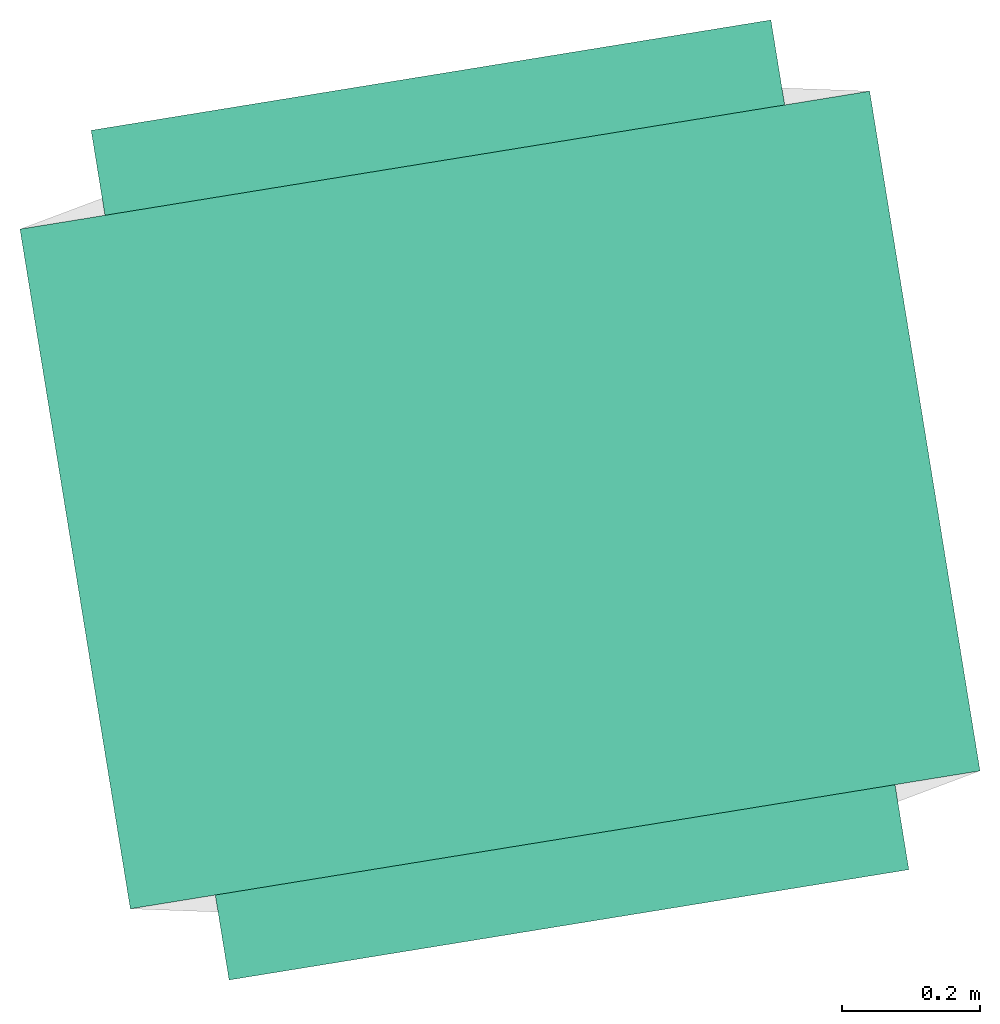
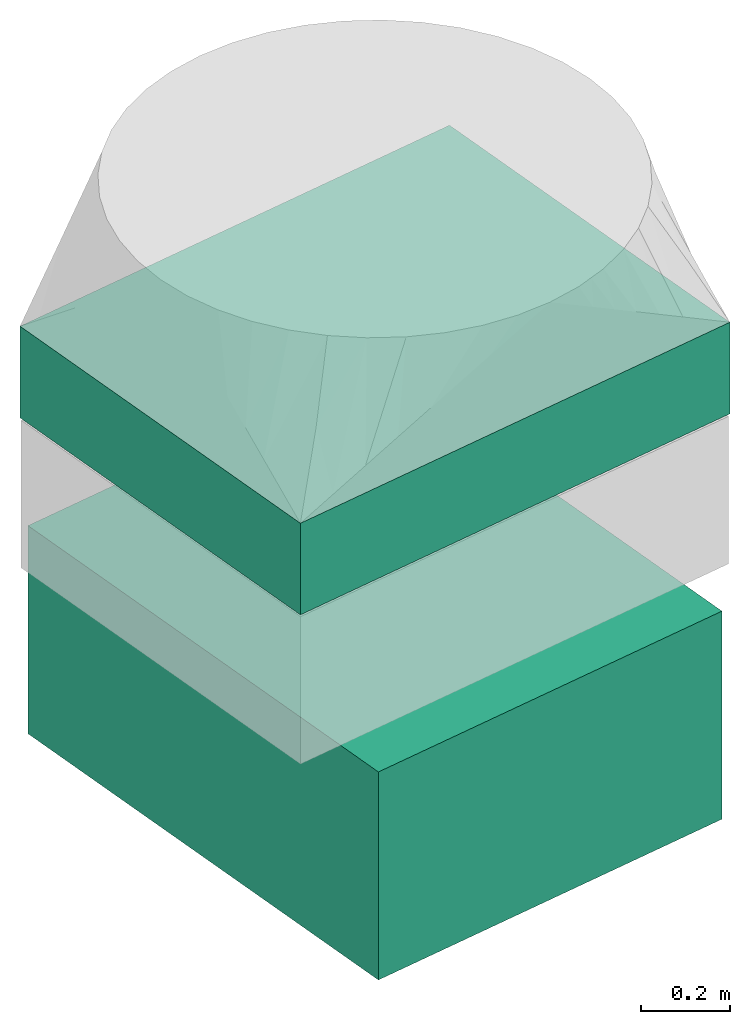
# One storey, part 1 of 3: 2 flow segments.
"""IFC2X3 building model written with IfcOpenShell, lengths in millimetres."""

from ifc_helpers import new_model, entity, si_unit, converted_unit, derived_unit, direction, frame, origin, origin_with_axes, origin_2d_with_axis, place, context, subcontext, project, spatial, rectangle, extrude, type_object, element, save


model = new_model("IFC2X3")

# Units and contexts
model_context = context("Model", 3, precision=0.01, world=origin(), true_north=direction((6.12323399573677e-17, 1.0)))
plan_context = context("Plan", 3, precision=1e-05, world=origin_with_axes())
body_context = subcontext(model_context, "Body", "Model", "MODEL_VIEW")
ifc_project = project(units=[converted_unit("PLANEANGLEUNIT", "DEGREE", entity("IfcPositiveLengthMeasure", 0.0174532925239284), si_unit("PLANEANGLEUNIT", "RADIAN"), dimensions=[0, 0, 0, 0, 0, 0, 0]), si_unit("AREAUNIT", "SQUARE_METRE"), si_unit("LENGTHUNIT", "METRE", prefix="MILLI"), si_unit("MASSUNIT", "GRAM", prefix="KILO"), si_unit("POWERUNIT", "WATT"), si_unit("PRESSUREUNIT", "PASCAL", prefix="KILO"), si_unit("FORCEUNIT", "NEWTON", prefix="KILO"), si_unit("ELECTRICVOLTAGEUNIT", "VOLT"), si_unit("ELECTRICCURRENTUNIT", "AMPERE"), si_unit("THERMODYNAMICTEMPERATUREUNIT", "DEGREE_CELSIUS"), si_unit("TIMEUNIT", "SECOND"), si_unit("VOLUMEUNIT", "CUBIC_METRE"), derived_unit("LINEARVELOCITYUNIT", [(si_unit("LENGTHUNIT", "METRE"), 1), (si_unit("TIMEUNIT", "SECOND"), -1)]), derived_unit("VOLUMETRICFLOWRATEUNIT", [(si_unit("VOLUMEUNIT", "CUBIC_METRE"), 1), (si_unit("TIMEUNIT", "SECOND"), -1)]), derived_unit("THERMALTRANSMITTANCEUNIT", [(si_unit("POWERUNIT", "WATT"), 1), (si_unit("THERMODYNAMICTEMPERATUREUNIT", "KELVIN"), -1), (si_unit("AREAUNIT", "SQUARE_METRE"), -1)]), derived_unit("SOUNDPRESSUREUNIT", [(si_unit("PRESSUREUNIT", "PASCAL"), 1)])], contexts=[model_context, plan_context])

# Site, building, storey
site_placement = place(None, frame((-0.00071070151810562, 0.00438415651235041, 0.0), z_axis=(0.0, 0.0, 1.0), x_axis=(-0.160236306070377, 0.987078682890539, 0.0)))
site = spatial("IfcSite", under=ifc_project, at=site_placement, Name="Default", CompositionType="ELEMENT")
building_placement = place(site_placement, origin_with_axes())
building = spatial("IfcBuilding", under=site, at=building_placement, CompositionType="ELEMENT")
storey_placement = place(building_placement, frame((0.0, 0.0, 55630.0), z_axis=(0.0, 0.0, 1.0), x_axis=(1.0, 0.0, 0.0)))
storey = spatial("IfcBuildingStorey", under=building, at=storey_placement, Name="Nivå E", CompositionType="ELEMENT", Elevation=55630.0)

# Flow segments
duct_segment_type = type_object("IfcDuctSegmentType", Name="Rectangular Duct:KK002T - Rektangulære, Forsinket stål", PredefinedType="NOTDEFINED")
flow_segment_1_placement = place(storey_placement, origin_with_axes())
element("IfcFlowSegment", 1, at=flow_segment_1_placement, inside=storey, type_object=duct_segment_type, Name="Rectangular Duct:KK002T - Rektangulære, Forsinket stål", ObjectType="Rectangular Duct:KK002T - Rektangulære, Forsinket stål", context=body_context, shape_type="SweptSolid", body=[
    extrude(rectangle(XDim=999.999999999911, YDim=1250.00000000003, at=origin_2d_with_axis()), frame((776626.452700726, -596135.086612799, -4430.0018798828), z_axis=(0.0, 0.0, 1.0), x_axis=(-1.0, 0.0, 0.0)), (0.0, 0.0, 1.0), 252.132661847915),
])
flow_segment_2_placement = place(storey_placement, origin_with_axes())
element("IfcFlowSegment", 2, at=flow_segment_2_placement, inside=storey, type_object=duct_segment_type, Name="Rectangular Duct:KK002T - Rektangulære, Forsinket stål", ObjectType="Rectangular Duct:KK002T - Rektangulære, Forsinket stål", context=body_context, shape_type="SweptSolid", body=[
    extrude(rectangle(XDim=1000.00000000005, YDim=1250.00000000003, at=origin_2d_with_axis()), frame((776626.452700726, -596135.086612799, -5422.64765977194), z_axis=(0.0, 0.0, 1.0), x_axis=(0.0, 1.0, 0.0)), (0.0, 0.0, 1.0), 572.645779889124),
])

save(model, "model.ifc")
